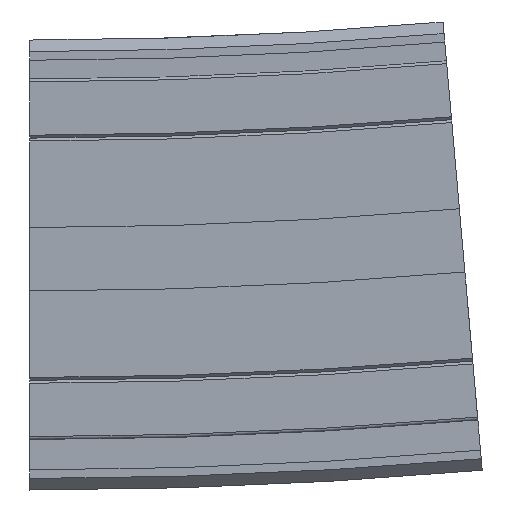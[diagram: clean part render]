
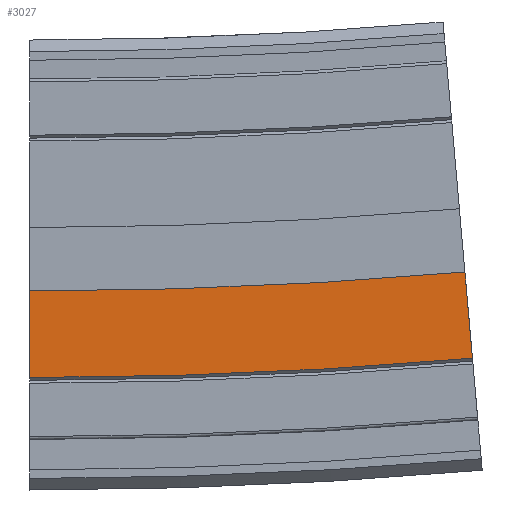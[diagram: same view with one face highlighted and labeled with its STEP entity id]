
A CAD part, front view. The second image highlights one B-rep face of the part: STEP entity #3027.
In plain terms, the highlighted planar face has unit normal (0, -1, 0).
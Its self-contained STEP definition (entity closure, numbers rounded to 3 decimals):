
#2969=CARTESIAN_POINT('',(76.741,-32.,-55.149));
#2970=VERTEX_POINT('',#2969);
#2977=CARTESIAN_POINT('',(0.0,-32.,-58.5));
#2978=VERTEX_POINT('',#2977);
#2979=CARTESIAN_POINT('',(0.,-32.,822.0));
#2980=DIRECTION('',(0.0,-1.0,0.0));
#2981=DIRECTION('',(-0.087,0.0,0.996));
#2982=AXIS2_PLACEMENT_3D('',#2979,#2980,#2981);
#2983=CIRCLE('',#2982,880.5);
#2984=EDGE_CURVE('',#2978,#2970,#2983,.T.);
#2996=CARTESIAN_POINT('',(0.0,-32.,-51.));
#2997=DIRECTION('',(0.0,-1.0,0.0));
#2998=DIRECTION('',(0.0,0.0,-1.0));
#2999=AXIS2_PLACEMENT_3D('',#2996,#2997,#2998);
#3000=PLANE('',#2999);
#3001=CARTESIAN_POINT('',(75.433,-32.,-40.207));
#3002=VERTEX_POINT('',#3001);
#3003=CARTESIAN_POINT('',(76.741,-32.,-55.149));
#3004=DIRECTION('',(-0.087,0.,0.996));
#3005=VECTOR('',#3004,15.);
#3006=LINE('',#3003,#3005);
#3007=EDGE_CURVE('',#2970,#3002,#3006,.T.);
#3008=ORIENTED_EDGE('',*,*,#3007,.T.);
#3009=CARTESIAN_POINT('',(0.0,-32.,-43.5));
#3010=VERTEX_POINT('',#3009);
#3011=CARTESIAN_POINT('',(0.,-32.,822.0));
#3012=DIRECTION('',(0.0,-1.0,0.0));
#3013=DIRECTION('',(-0.087,0.0,0.996));
#3014=AXIS2_PLACEMENT_3D('',#3011,#3012,#3013);
#3015=CIRCLE('',#3014,865.5);
#3016=EDGE_CURVE('',#3010,#3002,#3015,.T.);
#3017=ORIENTED_EDGE('',*,*,#3016,.F.);
#3018=CARTESIAN_POINT('',(0.0,-32.,-43.5));
#3019=DIRECTION('',(0.0,0.0,-1.0));
#3020=VECTOR('',#3019,15.);
#3021=LINE('',#3018,#3020);
#3022=EDGE_CURVE('',#3010,#2978,#3021,.T.);
#3023=ORIENTED_EDGE('',*,*,#3022,.T.);
#3024=ORIENTED_EDGE('',*,*,#2984,.T.);
#3025=EDGE_LOOP('',(#3008,#3017,#3023,#3024));
#3026=FACE_OUTER_BOUND('',#3025,.T.);
#3027=ADVANCED_FACE('',(#3026),#3000,.T.);
